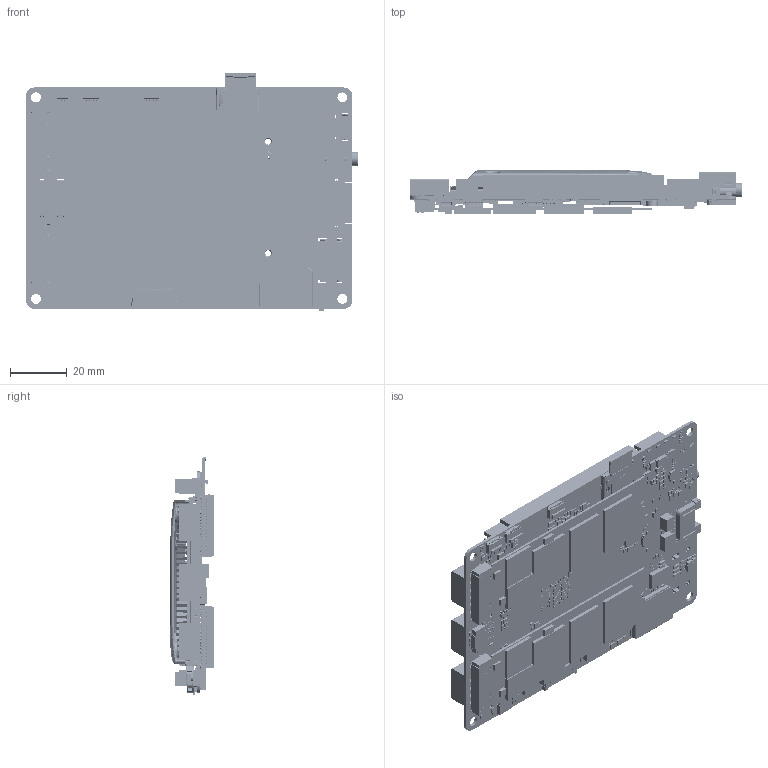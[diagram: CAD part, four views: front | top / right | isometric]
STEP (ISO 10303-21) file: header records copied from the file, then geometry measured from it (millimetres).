
FILE_DESCRIPTION(/* description */ (''),/* implementation_level */ '2;1');
FILE_NAME(/* name */ '_model15-3方案2.stp',/* time_stamp */ '2018-10-24T13:03:53+08:00',/* author */ (''),/* organization */ (''),/* preprocessor_version */ 'ST-DEVELOPER v16',/* originating_system */ 'SIEMENS PLM Software NX 10.0',/* authorisation */ '');
FILE_SCHEMA (('AP203_CONFIGURATION_CONTROLLED_3D_DESIGN_OF_MECHANICAL_PARTS_AND_ASSEMBLIES_MIM_LF { 1 0 10303 403 2 1 2}'));
Products named in the file (1): Admi17B08B3B2xt1
Bounding box: 117 x 15.18 x 84.18 mm (x, y, z)
Volume: 44497.3 mm3; surface area: 73406.6 mm2
Topology: 1264 solids, 1283 shells, 27256 faces, 71063 edges, 47156 vertices
Faces by surface type: plane 19713, cylinder 7084, bspline 207, cone 107, torus 73, extrusion 40, sphere 32
Full cylindrical faces by diameter (mm): 0.75 x2, 0.8 x2
Entity records: 850321 total; most frequent: CARTESIAN_POINT 160745, ORIENTED_EDGE 142040, DIRECTION 138151, EDGE_CURVE 71020, VECTOR 55319, LINE 55279, VERTEX_POINT 47154, AXIS2_PLACEMENT_3D 41416
